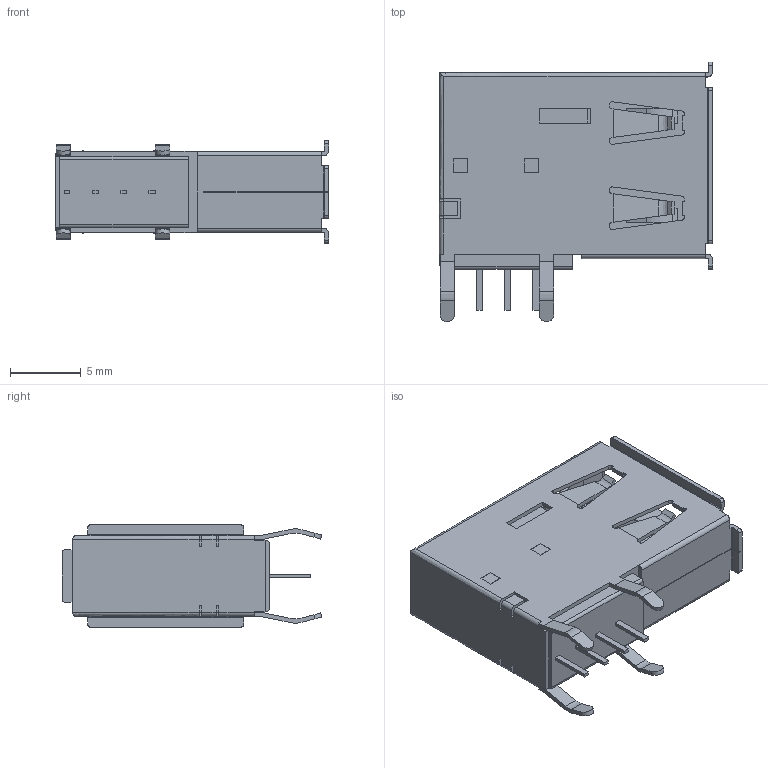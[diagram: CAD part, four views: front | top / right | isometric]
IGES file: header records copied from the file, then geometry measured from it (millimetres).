
Start section:  PTC IGES file: 482040001.igs
Global section: file name: 482040001.igs; native system: Creo Parametric by Parametric Technology Corporation; preprocessor: 2012310; author: ksrinivasara; organization: Unknown; date: 20161213.142916; units: millimetre
Bounding box: 19.25 x 18.29 x 7.2 mm (x, y, z)
Volume: 1077.4 mm3; surface area: 1541.4 mm2
Topology: 1 solids, 1 shells, 381 faces, 1106 edges, 734 vertices
Faces by surface type: bspline 285, revolution 96
